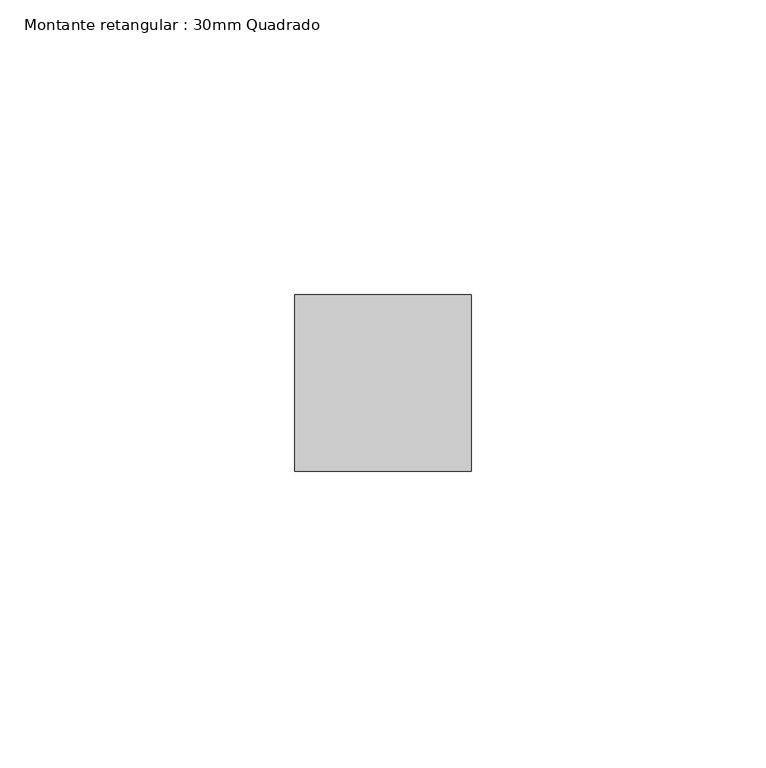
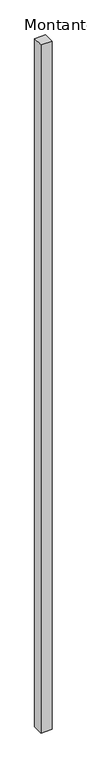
"""IFC4 building model written with IfcOpenShell, lengths in millimetres: member geometry, Montante retangular : 30mm Quadrado."""

from ifc_helpers import new_model, si_unit, frame, origin, place, context, project, spatial, polyline, outline, extrude, source, transform, mapped, element, save


def montante_retangular_30mm_quadrado_f4abcc67(model_context):
    return source(origin(), model_context, "Body", "SweptSolid", [
        extrude(outline(polyline([(0.0, 15.0), (0.0, -15.0), (-30.0, -15.0), (-30.0, 15.0), (0.0, 15.0)])), frame((0.0, 0.0, -1990.0), z_axis=(0.0, 0.0, 1.0), x_axis=(1.0, 0.0, 0.0)), (0.0, 0.0, 1.0), 1990.0),
    ])


if __name__ == "__main__":
    model = new_model("IFC4")
    model_context = context("Model", 3, world=origin())
    ifc_project = project(units=[si_unit("LENGTHUNIT", "METRE", prefix="MILLI")], contexts=[model_context])
    site = spatial("IfcSite", under=ifc_project)
    building = spatial("IfcBuilding", under=site)
    placement = place(None, origin())
    montante_retangular_30mm_quadrado_shape = montante_retangular_30mm_quadrado_f4abcc67(model_context)
    element("IfcMember", 1, ObjectType="Montante retangular : 30mm Quadrado", at=placement, inside=building, context=model_context, shape_type="MappedRepresentation", body=[
        mapped(montante_retangular_30mm_quadrado_shape, transform((0.0, 0.0, 0.0), x_axis=(1.0, 0.0, 0.0), y_axis=(0.0, 1.0, 0.0), z_axis=(0.0, 0.0, 1.0))),
    ])
    save(model, "model.ifc")
